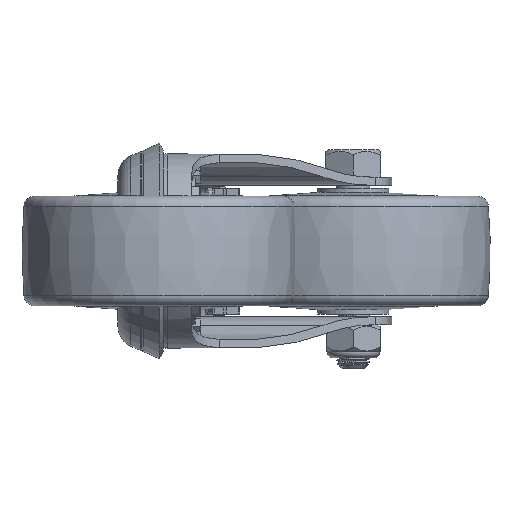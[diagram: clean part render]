
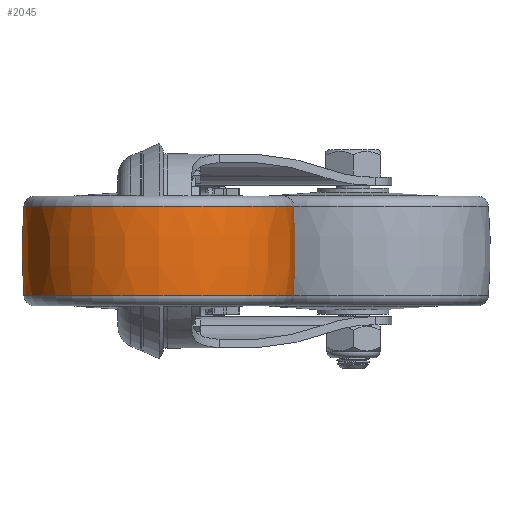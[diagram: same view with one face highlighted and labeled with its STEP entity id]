
A CAD part, left-side view. The second image highlights one B-rep face of the part: STEP entity #2045.
In plain terms, the highlighted free-form (B-spline) face has degree [3, 3] with [4, 7] control points.
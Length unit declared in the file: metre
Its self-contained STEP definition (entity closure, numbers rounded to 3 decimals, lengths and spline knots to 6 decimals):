
#2045=ADVANCED_FACE('',(#4830,#4831),#4832,.T.);
#4830=FACE_OUTER_BOUND('',#8027,.T.);
#4831=FACE_OUTER_BOUND('',#8028,.T.);
#4832=(B_SPLINE_SURFACE(3,3,((#8030,#8031,#8032,#8033,#8034,#8035,#8036),(#8037,#8038,#8039,#8040,#8041,#8042,#8043),(#8044,#8045,#8046,#8047,#8048,#8049,#8050),(#8051,#8052,#8053,#8054,#8055,#8056,#8057)),.UNSPECIFIED.,.F.,.T.,.F.)B_SPLINE_SURFACE_WITH_KNOTS((4,4),(4,3,4),(0.0,6.283185),(-0.081515,0.,0.081515),.UNSPECIFIED.)RATIONAL_B_SPLINE_SURFACE(((1.0,0.333,0.333,1.0,0.333,0.333,1.0),(0.998,0.333,0.333,0.998,0.333,0.333,0.998),(0.998,0.333,0.333,0.998,0.333,0.333,0.998),(1.0,0.333,0.333,1.0,0.333,0.333,1.0)))BOUNDED_SURFACE()REPRESENTATION_ITEM('')GEOMETRIC_REPRESENTATION_ITEM()SURFACE());
#8027=EDGE_LOOP('',(#20759));
#8028=EDGE_LOOP('',(#20760));
#8030=CARTESIAN_POINT('',(0.008163,0.,-0.024667));
#8031=CARTESIAN_POINT('',(0.008163,0.049334,-0.024667));
#8032=CARTESIAN_POINT('',(0.008163,0.049334,0.024667));
#8033=CARTESIAN_POINT('',(0.008163,0.,0.024667));
#8034=CARTESIAN_POINT('',(0.008163,-0.049334,0.024667));
#8035=CARTESIAN_POINT('',(0.008163,-0.049334,-0.024667));
#8036=CARTESIAN_POINT('',(0.008163,0.,-0.024667));
#8037=CARTESIAN_POINT('',(0.002727,0.,-0.025111));
#8038=CARTESIAN_POINT('',(0.002727,0.050222,-0.025111));
#8039=CARTESIAN_POINT('',(0.002727,0.050222,0.025111));
#8040=CARTESIAN_POINT('',(0.002727,0.,0.025111));
#8041=CARTESIAN_POINT('',(0.002727,-0.050222,0.025111));
#8042=CARTESIAN_POINT('',(0.002727,-0.050222,-0.025111));
#8043=CARTESIAN_POINT('',(0.002727,0.,-0.025111));
#8044=CARTESIAN_POINT('',(-0.002727,0.,-0.025111));
#8045=CARTESIAN_POINT('',(-0.002727,0.050222,-0.025111));
#8046=CARTESIAN_POINT('',(-0.002727,0.050222,0.025111));
#8047=CARTESIAN_POINT('',(-0.002727,0.,0.025111));
#8048=CARTESIAN_POINT('',(-0.002727,-0.050222,0.025111));
#8049=CARTESIAN_POINT('',(-0.002727,-0.050222,-0.025111));
#8050=CARTESIAN_POINT('',(-0.002727,0.,-0.025111));
#8051=CARTESIAN_POINT('',(-0.008163,0.,-0.024667));
#8052=CARTESIAN_POINT('',(-0.008163,0.049334,-0.024667));
#8053=CARTESIAN_POINT('',(-0.008163,0.049334,0.024667));
#8054=CARTESIAN_POINT('',(-0.008163,0.,0.024667));
#8055=CARTESIAN_POINT('',(-0.008163,-0.049334,0.024667));
#8056=CARTESIAN_POINT('',(-0.008163,-0.049334,-0.024667));
#8057=CARTESIAN_POINT('',(-0.008163,0.,-0.024667));
#20759=ORIENTED_EDGE('',*,*,#24784,.T.);
#20760=ORIENTED_EDGE('',*,*,#24785,.F.);
#24784=EDGE_CURVE('',#30892,#30892,#30893,.T.);
#24785=EDGE_CURVE('',#30894,#30894,#30895,.T.);
#30892=VERTEX_POINT('',#40993);
#30893=CIRCLE('',#40994,0.024667);
#30894=VERTEX_POINT('',#40995);
#30895=CIRCLE('',#40996,0.024667);
#40993=CARTESIAN_POINT('',(0.008163,0.0,0.024667));
#40994=AXIS2_PLACEMENT_3D('',#47901,#47902,#47903);
#40995=CARTESIAN_POINT('',(-0.008163,0.0,0.024667));
#40996=AXIS2_PLACEMENT_3D('',#47904,#47905,#47906);
#47901=CARTESIAN_POINT('',(0.008163,0.0,0.0));
#47902=DIRECTION('',(-1.0,0.0,0.0));
#47903=DIRECTION('',(0.0,0.0,1.0));
#47904=CARTESIAN_POINT('',(-0.008163,0.0,0.0));
#47905=DIRECTION('',(-1.0,0.0,0.0));
#47906=DIRECTION('',(0.0,0.0,1.0));
